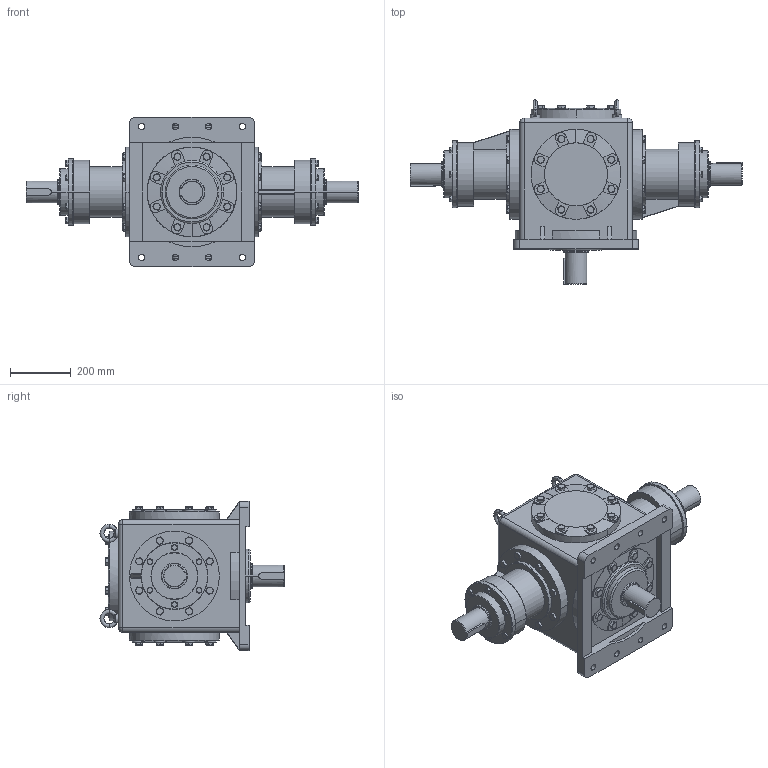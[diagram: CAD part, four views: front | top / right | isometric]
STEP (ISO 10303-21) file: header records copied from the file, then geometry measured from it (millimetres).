
FILE_DESCRIPTION (( 'STEP AP203' ), '1' );
FILE_NAME ('T20-1£º1-1-1-D-V5.step', '2018-07-13T01:43:20', ( 'IT Division' ), ( 'IT' ), 'SwSTEP 2.0', 'SolidWorks 2016', '' );
FILE_SCHEMA (( 'CONFIG_CONTROL_DESIGN' ));
Length unit declared in the file: millimetre
Products named in the file (1): T20-1：1-1-1-D-V5
Bounding box: 1090 x 604.45 x 490 mm (x, y, z)
Volume: 82218580.2 mm3; surface area: 1774121.5 mm2
Topology: 2 solids, 2 shells, 1288 faces, 3089 edges, 1875 vertices
Faces by surface type: plane 599, cone 467, cylinder 159, torus 51, sphere 12
Entity records: 44606 total; most frequent: CARTESIAN_POINT 16067, ORIENTED_EDGE 6170, DIRECTION 5539, EDGE_CURVE 3085, AXIS2_PLACEMENT_3D 2165, VERTEX_POINT 1875, EDGE_LOOP 1386, ADVANCED_FACE 1288
